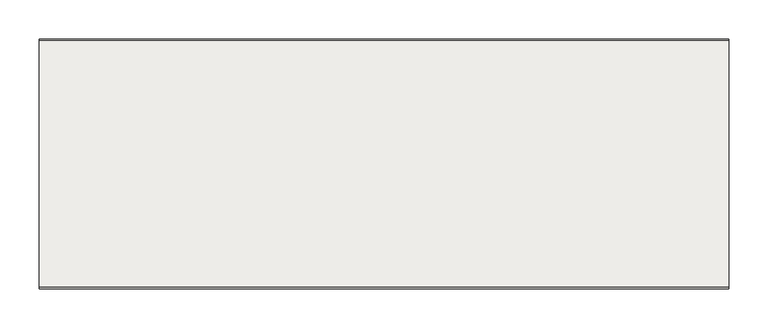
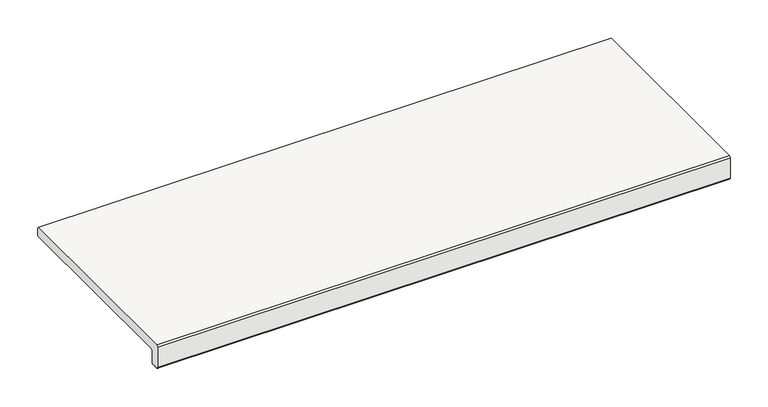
"""IFC4 building model written with IfcOpenShell, lengths in millimetres: slab geometry, ROSA GRES_L62 : Pieza L62_Serena_Ocra_Anti-Slip."""

from ifc_helpers import new_model, si_unit, point, frame, frame_2d, origin, place, context, project, spatial, polyline, circle_curve, trimmed, segment, composite_curve, outline, extrude, source, transform, mapped, element, save


def slab_79dd8232(model_context):
    return source(origin(), model_context, "Body", "SweptSolid", [
        extrude(outline(composite_curve([segment(polyline([(12.1001991, -37.0), (9.4054777, -37.0)]), True, "CONTINUOUS"), segment(trimmed(circle_curve(frame_2d((7.4142134, -37.0)), 1.9912643), [point((9.4054777, -37.0))], [point((5.422949, -37.0))], True, "CARTESIAN"), True, "CONTINUOUS"), segment(polyline([(5.422949, -37.0), (2.5, -37.0)]), True, "CONTINUOUS"), segment(trimmed(circle_curve(frame_2d((2.5, -34.5)), 2.5), [point((2.5, -37.0))], [point((0.0, -34.5))], False, "CARTESIAN"), True, "CONTINUOUS"), segment(polyline([(0.0, -34.5), (0.0, -2.5), (2.5, 0.0), (315.5, 0.0), (317.0, -2.5), (317.0, -12.4648352)]), True, "CONTINUOUS"), segment(trimmed(circle_curve(frame_2d((315.5234432, -12.4648352)), 1.4765568), [point((317.0, -12.4648352))], [point((315.5234432, -13.9413919))], False, "CARTESIAN"), True, "CONTINUOUS"), segment(polyline([(315.5234432, -13.9413919), (16.6422322, -13.9413919)]), True, "CONTINUOUS"), segment(trimmed(circle_curve(frame_2d((16.6422322, -16.5836242)), 2.6422322), [point((16.6422322, -13.9413919))], [point((14.0, -16.5836242))], True, "CARTESIAN"), True, "CONTINUOUS"), segment(polyline([(14.0, -16.5836242), (14.0, -35.1001991)]), True, "CONTINUOUS"), segment(trimmed(circle_curve(frame_2d((12.1001991, -35.1001991)), 1.8998009), [point((14.0, -35.1001991))], [point((12.1001991, -37.0))], False, "CARTESIAN"), True, "CONTINUOUS")], self_intersect=False)), frame((0.0, 0.0, 0.0), z_axis=(1.0, 0.0, 0.0), x_axis=(0.0, 1.0, 0.0)), (0.0, 0.0, 1.0), 875.0),
    ])


if __name__ == "__main__":
    model = new_model("IFC4")
    model_context = context("Model", 3, world=origin())
    ifc_project = project(units=[si_unit("LENGTHUNIT", "METRE", prefix="MILLI")], contexts=[model_context])
    site = spatial("IfcSite", under=ifc_project)
    building = spatial("IfcBuilding", under=site)
    placement = place(None, origin())
    slab_shape = slab_79dd8232(model_context)
    element("IfcSlab", 1, ObjectType="ROSA GRES_L62 : Pieza L62_Serena_Ocra_Anti-Slip", at=placement, inside=building, context=model_context, shape_type="MappedRepresentation", body=[
        mapped(slab_shape, transform((0.0, 0.0, 0.0), x_axis=(1.0, 0.0, 0.0), y_axis=(0.0, 1.0, 0.0), z_axis=(0.0, 0.0, 1.0))),
    ])
    save(model, "model.ifc")
